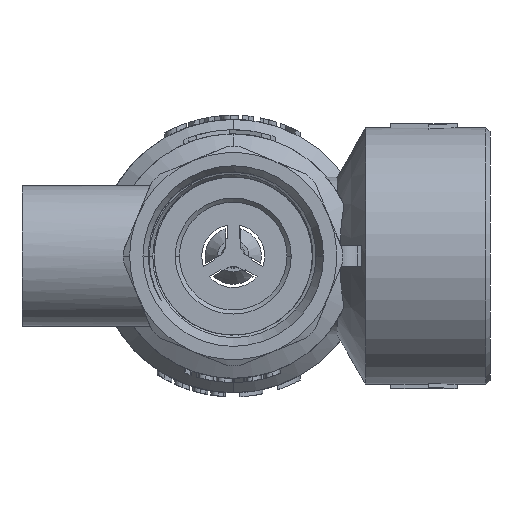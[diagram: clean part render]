
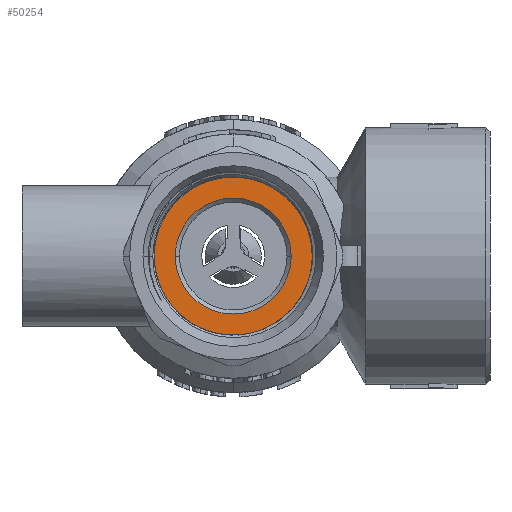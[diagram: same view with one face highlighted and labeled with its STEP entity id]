
A CAD part, front view. The second image highlights one B-rep face of the part: STEP entity #50254.
In plain terms, the highlighted planar face has unit normal (0, -1, 0).
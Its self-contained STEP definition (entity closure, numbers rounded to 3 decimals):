
#2315 = VERTEX_POINT ( 'NONE', #22855 ) ;
#3567 = EDGE_CURVE ( 'NONE', #2315, #8216, #32669, .T. ) ;
#5150 = AXIS2_PLACEMENT_3D ( 'NONE', #24629, #21275, #48449 ) ;
#5891 = EDGE_CURVE ( 'NONE', #33579, #25300, #42811, .T. ) ;
#6242 = CARTESIAN_POINT ( 'NONE',  ( 0., -13., 0. ) ) ;
#8216 = VERTEX_POINT ( 'NONE', #22611 ) ;
#10365 = ORIENTED_EDGE ( 'NONE', *, *, #46834, .F. ) ;
#10514 = AXIS2_PLACEMENT_3D ( 'NONE', #22217, #17882, #45815 ) ;
#12851 = ORIENTED_EDGE ( 'NONE', *, *, #3567, .T. ) ;
#13482 = CARTESIAN_POINT ( 'NONE',  ( 7., -13., 0. ) ) ;
#14842 = DIRECTION ( 'NONE',  ( 0., 1., 0. ) ) ;
#15838 = AXIS2_PLACEMENT_3D ( 'NONE', #41569, #14842, #19964 ) ;
#16493 = DIRECTION ( 'NONE',  ( -1., 0., 0. ) ) ;
#17882 = DIRECTION ( 'NONE',  ( 0., -1., 0. ) ) ;
#19964 = DIRECTION ( 'NONE',  ( -1., 0., 0. ) ) ;
#21275 = DIRECTION ( 'NONE',  ( 0., -1., 0. ) ) ;
#21550 = FACE_BOUND ( 'NONE', #46409, .T. ) ;
#22217 = CARTESIAN_POINT ( 'NONE',  ( 0., -13., 0. ) ) ;
#22343 = CIRCLE ( 'NONE', #5150, 7. ) ;
#22611 = CARTESIAN_POINT ( 'NONE',  ( -9.55, -13., 0. ) ) ;
#22855 = CARTESIAN_POINT ( 'NONE',  ( 9.55, -13., 0. ) ) ;
#24322 = ORIENTED_EDGE ( 'NONE', *, *, #5891, .F. ) ;
#24509 = AXIS2_PLACEMENT_3D ( 'NONE', #24721, #43671, #16493 ) ;
#24629 = CARTESIAN_POINT ( 'NONE',  ( 0., -13., 0. ) ) ;
#24721 = CARTESIAN_POINT ( 'NONE',  ( 0., -13., 0. ) ) ;
#25300 = VERTEX_POINT ( 'NONE', #34002 ) ;
#25524 = EDGE_LOOP ( 'NONE', ( #45746, #12851 ) ) ;
#26753 = DIRECTION ( 'NONE',  ( 1., 0., 0. ) ) ;
#29380 = CIRCLE ( 'NONE', #24509, 9.55 ) ;
#32669 = CIRCLE ( 'NONE', #10514, 9.55 ) ;
#33579 = VERTEX_POINT ( 'NONE', #13482 ) ;
#34002 = CARTESIAN_POINT ( 'NONE',  ( -7., -13., 0. ) ) ;
#37182 = FACE_OUTER_BOUND ( 'NONE', #25524, .T. ) ;
#38506 = DIRECTION ( 'NONE',  ( 0., -1., 0. ) ) ;
#41569 = CARTESIAN_POINT ( 'NONE',  ( -6.5, -13., 0. ) ) ;
#42026 = AXIS2_PLACEMENT_3D ( 'NONE', #6242, #38506, #26753 ) ;
#42742 = EDGE_CURVE ( 'NONE', #8216, #2315, #29380, .T. ) ;
#42811 = CIRCLE ( 'NONE', #42026, 7. ) ;
#43671 = DIRECTION ( 'NONE',  ( 0., -1., 0. ) ) ;
#45746 = ORIENTED_EDGE ( 'NONE', *, *, #42742, .T. ) ;
#45815 = DIRECTION ( 'NONE',  ( -1., 0., 0. ) ) ;
#46409 = EDGE_LOOP ( 'NONE', ( #24322, #10365 ) ) ;
#46834 = EDGE_CURVE ( 'NONE', #25300, #33579, #22343, .T. ) ;
#48449 = DIRECTION ( 'NONE',  ( 1., 0., 0. ) ) ;
#48979 = PLANE ( 'NONE',  #15838 ) ;
#50254 = ADVANCED_FACE ( 'NONE', ( #21550, #37182 ), #48979, .F. ) ;
